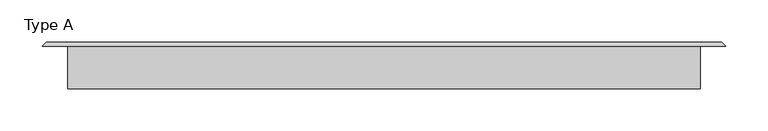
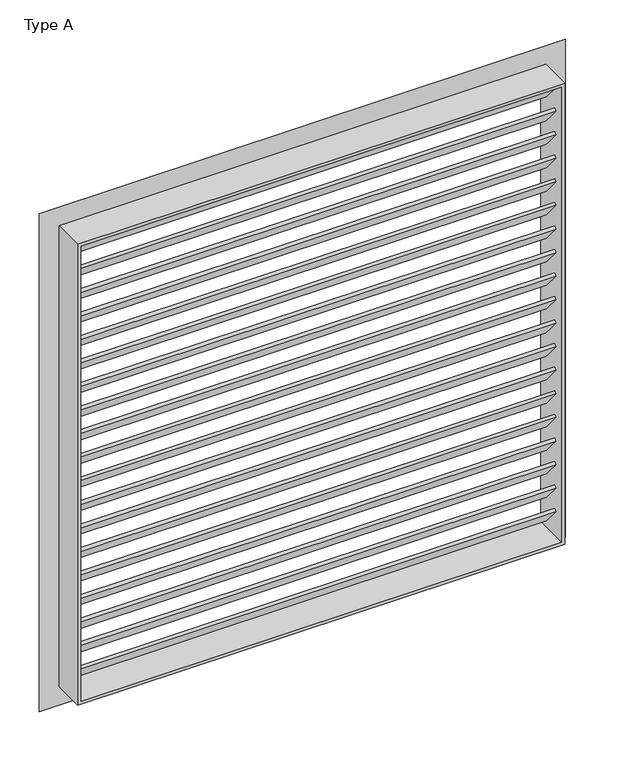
"""IFC4 building model written with IfcOpenShell, lengths in millimetres: proxy geometry, Grille d'aération - Mur : Type A."""

from ifc_helpers import new_model, si_unit, frame, origin, place, context, project, spatial, polyline, outline, extrude, faceted_brep, source, transform, mapped, element, save


def type_a_f67169f4(model_context):
    return source(origin(), model_context, "Body", "SolidModel", [
        extrude(outline(polyline([(0.0, -5.0), (0.0, 0.0), (740.0, 0.0), (740.0, -5.0), (0.0, -5.0)])), frame((495.0, 90.0, 2053.3333333), z_axis=(0.0, -0.6427876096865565, 0.7660444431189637), x_axis=(-1.0, 0.0, 0.0)), (0.0, 0.0, 1.0), 40.0),
        extrude(outline(polyline([(0.0, -5.0), (0.0, 0.0), (740.0, 0.0), (740.0, -5.0), (0.0, -5.0)])), frame((495.0, 90.0, 2091.6666667), z_axis=(0.0, -0.6427876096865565, 0.7660444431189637), x_axis=(-1.0, 0.0, 0.0)), (0.0, 0.0, 1.0), 40.0),
        extrude(outline(polyline([(0.0, -5.0), (0.0, 0.0), (740.0, 0.0), (740.0, -5.0), (0.0, -5.0)])), frame((495.0, 90.0, 2130.0), z_axis=(0.0, -0.6427876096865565, 0.7660444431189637), x_axis=(-1.0, 0.0, 0.0)), (0.0, 0.0, 1.0), 40.0),
        extrude(outline(polyline([(0.0, -5.0), (0.0, 0.0), (740.0, 0.0), (740.0, -5.0), (0.0, -5.0)])), frame((495.0, 90.0, 2168.3333333), z_axis=(0.0, -0.6427876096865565, 0.7660444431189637), x_axis=(-1.0, 0.0, 0.0)), (0.0, 0.0, 1.0), 40.0),
        extrude(outline(polyline([(0.0, -5.0), (0.0, 0.0), (740.0, 0.0), (740.0, -5.0), (0.0, -5.0)])), frame((495.0, 90.0, 2206.6666667), z_axis=(0.0, -0.6427876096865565, 0.7660444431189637), x_axis=(-1.0, 0.0, 0.0)), (0.0, 0.0, 1.0), 40.0),
        extrude(outline(polyline([(0.0, -5.0), (0.0, 0.0), (740.0, 0.0), (740.0, -5.0), (0.0, -5.0)])), frame((495.0, 90.0, 2245.0), z_axis=(0.0, -0.6427876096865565, 0.7660444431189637), x_axis=(-1.0, 0.0, 0.0)), (0.0, 0.0, 1.0), 40.0),
        extrude(outline(polyline([(0.0, -5.0), (0.0, 0.0), (740.0, 0.0), (740.0, -5.0), (0.0, -5.0)])), frame((495.0, 90.0, 2283.3333333), z_axis=(0.0, -0.6427876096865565, 0.7660444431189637), x_axis=(-1.0, 0.0, 0.0)), (0.0, 0.0, 1.0), 40.0),
        extrude(outline(polyline([(0.0, -5.0), (0.0, 0.0), (740.0, 0.0), (740.0, -5.0), (0.0, -5.0)])), frame((495.0, 90.0, 2321.6666667), z_axis=(0.0, -0.6427876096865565, 0.7660444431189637), x_axis=(-1.0, 0.0, 0.0)), (0.0, 0.0, 1.0), 40.0),
        extrude(outline(polyline([(0.0, -5.0), (0.0, 0.0), (740.0, 0.0), (740.0, -5.0), (0.0, -5.0)])), frame((495.0, 90.0, 2360.0), z_axis=(0.0, -0.6427876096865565, 0.7660444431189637), x_axis=(-1.0, 0.0, 0.0)), (0.0, 0.0, 1.0), 40.0),
        extrude(outline(polyline([(0.0, -5.0), (0.0, 0.0), (740.0, 0.0), (740.0, -5.0), (0.0, -5.0)])), frame((495.0, 90.0, 2398.3333333), z_axis=(0.0, -0.6427876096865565, 0.7660444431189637), x_axis=(-1.0, 0.0, 0.0)), (0.0, 0.0, 1.0), 40.0),
        extrude(outline(polyline([(0.0, -5.0), (0.0, 0.0), (740.0, 0.0), (740.0, -5.0), (0.0, -5.0)])), frame((495.0, 90.0, 2436.6666667), z_axis=(0.0, -0.6427876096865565, 0.7660444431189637), x_axis=(-1.0, 0.0, 0.0)), (0.0, 0.0, 1.0), 40.0),
        extrude(outline(polyline([(0.0, -5.0), (0.0, 0.0), (740.0, 0.0), (740.0, -5.0), (0.0, -5.0)])), frame((495.0, 90.0, 2475.0), z_axis=(0.0, -0.6427876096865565, 0.7660444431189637), x_axis=(-1.0, 0.0, 0.0)), (0.0, 0.0, 1.0), 40.0),
        extrude(outline(polyline([(0.0, -5.0), (0.0, 0.0), (740.0, 0.0), (740.0, -5.0), (0.0, -5.0)])), frame((495.0, 90.0, 2513.3333333), z_axis=(0.0, -0.6427876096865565, 0.7660444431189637), x_axis=(-1.0, 0.0, 0.0)), (0.0, 0.0, 1.0), 40.0),
        extrude(outline(polyline([(0.0, -5.0), (0.0, 0.0), (740.0, 0.0), (740.0, -5.0), (0.0, -5.0)])), frame((495.0, 90.0, 2551.6666667), z_axis=(0.0, -0.6427876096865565, 0.7660444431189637), x_axis=(-1.0, 0.0, 0.0)), (0.0, 0.0, 1.0), 40.0),
        extrude(outline(polyline([(0.0, -5.0), (0.0, 0.0), (740.0, 0.0), (740.0, -5.0), (0.0, -5.0)])), frame((495.0, 90.0, 2590.0), z_axis=(0.0, -0.6427876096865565, 0.7660444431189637), x_axis=(-1.0, 0.0, 0.0)), (0.0, 0.0, 1.0), 40.0),
        extrude(outline(polyline([(0.0, -5.0), (0.0, 0.0), (740.0, 0.0), (740.0, -5.0), (0.0, -5.0)])), frame((495.0, 90.0, 2628.3333333), z_axis=(0.0, -0.6427876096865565, 0.7660444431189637), x_axis=(-1.0, 0.0, 0.0)), (0.0, 0.0, 1.0), 40.0),
        extrude(outline(polyline([(0.0, -5.0), (0.0, 0.0), (740.0, 0.0), (740.0, -5.0), (0.0, -5.0)])), frame((495.0, 90.0, 2666.6666667), z_axis=(0.0, -0.6427876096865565, 0.7660444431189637), x_axis=(-1.0, 0.0, 0.0)), (0.0, 0.0, 1.0), 40.0),
        extrude(outline(polyline([(0.0, -5.0), (0.0, 0.0), (740.0, 0.0), (740.0, -5.0), (0.0, -5.0)])), frame((495.0, 90.0, 2015.0), z_axis=(0.0, -0.6427876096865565, 0.7660444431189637), x_axis=(-1.0, 0.0, 0.0)), (0.0, 0.0, 1.0), 40.0),
        extrude(outline(polyline([(0.0, -5.0), (0.0, 0.0), (740.0, 0.0), (740.0, -5.0), (0.0, -5.0)])), frame((495.0, 90.0, 2705.0), z_axis=(0.0, -0.6427876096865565, 0.7660444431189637), x_axis=(-1.0, 0.0, 0.0)), (0.0, 0.0, 1.0), 40.0),
        faceted_brep([(-250.0, 50.0, 2750.0), (-250.0, 100.0, 2750.0), (-250.0, 100.0, 2000.0), (-250.0, 50.0, 2000.0), (-245.0, 105.0, 2745.0), (-245.0, 50.0, 2745.0), (-245.0, 50.0, 2005.0), (-245.0, 105.0, 2005.0), (-280.284753, 100.0, 2780.284753), (-275.284753, 105.0, 2775.284753), (-275.284753, 105.0, 1974.715247), (-280.284753, 100.0, 1969.715247), (500.0, 100.0, 2000.0), (500.0, 50.0, 2000.0), (495.0, 50.0, 2005.0), (495.0, 105.0, 2005.0), (525.284753, 105.0, 1974.715247), (530.284753, 100.0, 1969.715247), (500.0, 100.0, 2750.0), (500.0, 50.0, 2750.0), (495.0, 50.0, 2745.0), (495.0, 105.0, 2745.0), (525.284753, 105.0, 2775.284753), (530.284753, 100.0, 2780.284753)], [[[0, 1, 2, 3]], [[4, 5, 6, 7]], [[8, 9, 10, 11]], [[3, 2, 12, 13]], [[7, 6, 14, 15]], [[11, 10, 16, 17]], [[13, 12, 18, 19]], [[15, 14, 20, 21]], [[17, 16, 22, 23]], [[19, 18, 1, 0]], [[3, 13, 19, 0], [5, 20, 14, 6]], [[21, 20, 5, 4]], [[9, 22, 16, 10], [7, 15, 21, 4]], [[23, 22, 9, 8]], [[11, 17, 23, 8], [1, 18, 12, 2]]]),
    ])


if __name__ == "__main__":
    model = new_model("IFC4")
    model_context = context("Model", 3, world=origin())
    ifc_project = project(units=[si_unit("LENGTHUNIT", "METRE", prefix="MILLI")], contexts=[model_context])
    site = spatial("IfcSite", under=ifc_project)
    building = spatial("IfcBuilding", under=site)
    placement = place(None, origin())
    type_a_shape = type_a_f67169f4(model_context)
    element("IfcBuildingElementProxy", 1, Name="Grille d'aération - Mur : Type A", ObjectType="Grille d'aération - Mur : Type A", at=placement, inside=building, context=model_context, shape_type="MappedRepresentation", body=[
        mapped(type_a_shape, transform((0.0, 0.0, 0.0), x_axis=(1.0, 0.0, 0.0), y_axis=(0.0, 1.0, 0.0), z_axis=(0.0, 0.0, 1.0))),
    ])
    save(model, "model.ifc")
